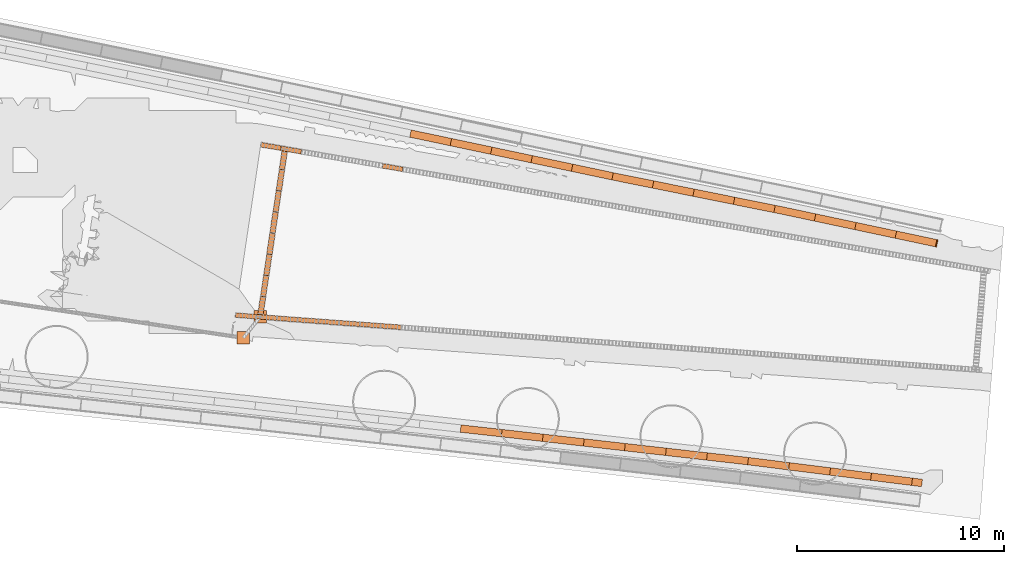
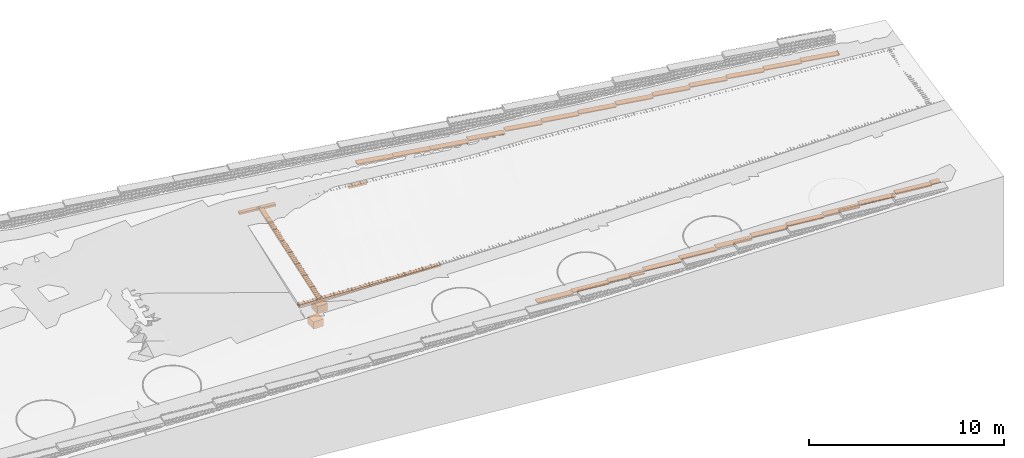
# Not in any storey, part 14 of 33: 47 proxies.
"""IFC4 model written with IfcOpenShell, lengths in metres."""

from ifc_helpers import new_model, si_unit, direction, frame, origin_with_axes, place, context, subcontext, project, spatial, polyline, outline, extrude, polygons, material, element, save


model = new_model("IFC4")

# Units and contexts
model_context = context("Model", 3, precision=1e-05, world=origin_with_axes(), true_north=direction((0.0, 1.0)))
body_context = subcontext(model_context, "Body", "Model", "MODEL_VIEW")
ifc_project = project(units=[si_unit("LENGTHUNIT", "METRE"), si_unit("AREAUNIT", "SQUARE_METRE"), si_unit("VOLUMEUNIT", "CUBIC_METRE")], contexts=[model_context])

# Site
site_placement = place(None, origin_with_axes())
site = spatial("IfcSite", under=ifc_project, at=site_placement, Name="Lares · Rua das Mercês · artigo 4771")

# Proxies
ifc_material_1 = material(Name="Brita drenante", Category="stone")
proxy_1_placement = place(site_placement, frame((0.0, 0.0, 0.0), z_axis=(0.0, 0.0, 1.0), x_axis=(1.0, -1.03767253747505e-17, 0.0)))
element("IfcBuildingElementProxy", 1, at=proxy_1_placement, inside=site, material=ifc_material_1, Name="Acesso · dreno lateral raso · leito drenante", ObjectType="Acesso · dreno lateral raso · leito drenante", PredefinedType="USERDEFINED", context=body_context, shape_type="Tessellation", body=[
    polygons([(46.6482466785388, 3.22123674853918, 14.3686), (46.6643740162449, 3.44064483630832, 14.3686), (47.6685459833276, 3.36683433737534, 14.37386763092), (47.6524186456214, 3.14742624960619, 14.37386763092), (46.6482466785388, 3.22123674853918, 14.4836), (46.6643740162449, 3.44064483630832, 14.4836), (47.6685459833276, 3.36683433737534, 14.48886763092), (47.6524186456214, 3.14742624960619, 14.48886763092)], [[[4, 3, 2, 1]], [[5, 6, 7, 8]], [[1, 2, 6, 5]], [[2, 3, 7, 6]], [[3, 4, 8, 7]], [[4, 1, 5, 8]]]),
])
proxy_2_placement = place(site_placement, frame((0.0, 0.0, 0.0), z_axis=(0.0, 0.0, 1.0), x_axis=(1.0, -1.03767253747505e-17, 0.0)))
element("IfcBuildingElementProxy", 2, at=proxy_2_placement, inside=site, material=ifc_material_1, Name="Acesso · dreno lateral raso · leito drenante", ObjectType="Acesso · dreno lateral raso · leito drenante", PredefinedType="USERDEFINED", context=body_context, shape_type="Tessellation", body=[
    polygons([(47.6524186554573, 3.14742624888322, 14.37386763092), (47.6685459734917, 3.36683433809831, 14.37386763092), (48.6727146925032, 3.29302416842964, 14.3809826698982), (48.6565873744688, 3.07361607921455, 14.3809826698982), (47.6524186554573, 3.14742624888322, 14.48886763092), (47.6685459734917, 3.36683433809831, 14.48886763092), (48.6727146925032, 3.29302416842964, 14.4959826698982), (48.6565873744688, 3.07361607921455, 14.4959826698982)], [[[4, 3, 2, 1]], [[5, 6, 7, 8]], [[1, 2, 6, 5]], [[2, 3, 7, 6]], [[3, 4, 8, 7]], [[4, 1, 5, 8]]]),
])
proxy_3_placement = place(site_placement, frame((0.0, 0.0, 0.0), z_axis=(0.0, 0.0, 1.0), x_axis=(1.0, -1.03767253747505e-17, 0.0)))
element("IfcBuildingElementProxy", 3, at=proxy_3_placement, inside=site, material=ifc_material_1, Name="Acesso · dreno lateral raso · leito drenante", ObjectType="Acesso · dreno lateral raso · leito drenante", PredefinedType="USERDEFINED", context=body_context, shape_type="Tessellation", body=[
    polygons([(48.656587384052, 3.07361607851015, 14.3809826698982), (48.67271468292, 3.29302416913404, 14.3809826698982), (49.6768800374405, 3.2192143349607, 14.3899451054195), (49.6607527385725, 2.99980624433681, 14.3899451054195), (48.656587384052, 3.07361607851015, 14.4959826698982), (48.67271468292, 3.29302416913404, 14.4959826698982), (49.6768800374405, 3.2192143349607, 14.5049451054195), (49.6607527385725, 2.99980624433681, 14.5049451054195)], [[[4, 3, 2, 1]], [[5, 6, 7, 8]], [[1, 2, 6, 5]], [[2, 3, 7, 6]], [[3, 4, 8, 7]], [[4, 1, 5, 8]]]),
])
proxy_4_placement = place(site_placement, frame((0.0, 0.0, 0.0), z_axis=(0.0, 0.0, 1.0), x_axis=(1.0, -1.03767253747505e-17, 0.0)))
element("IfcBuildingElementProxy", 4, at=proxy_4_placement, inside=site, material=ifc_material_1, Name="Acesso · dreno lateral raso · leito drenante", ObjectType="Acesso · dreno lateral raso · leito drenante", PredefinedType="USERDEFINED", context=body_context, shape_type="Tessellation", body=[
    polygons([(49.6607527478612, 2.99980624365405, 14.3899451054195), (49.6768800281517, 3.21921433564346, 14.3899451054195), (50.6810418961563, 3.14540484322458, 14.4007549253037), (50.6649146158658, 2.92599675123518, 14.4007549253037), (49.6607527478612, 2.99980624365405, 14.5049451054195), (49.6768800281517, 3.21921433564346, 14.5049451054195), (50.6810418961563, 3.14540484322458, 14.5157549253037), (50.6649146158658, 2.92599675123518, 14.5157549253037)], [[[4, 3, 2, 1]], [[5, 6, 7, 8]], [[1, 2, 6, 5]], [[2, 3, 7, 6]], [[3, 4, 8, 7]], [[4, 1, 5, 8]]]),
])
proxy_5_placement = place(site_placement, frame((0.0, 0.0, 0.0), z_axis=(0.0, 0.0, 1.0), x_axis=(1.0, -1.03767253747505e-17, 0.0)))
element("IfcBuildingElementProxy", 5, at=proxy_5_placement, inside=site, material=ifc_material_1, Name="Acesso · dreno lateral raso · leito drenante", ObjectType="Acesso · dreno lateral raso · leito drenante", PredefinedType="USERDEFINED", context=body_context, shape_type="Tessellation", body=[
    polygons([(50.664914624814, 2.92599675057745, 14.4007549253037), (50.681041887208, 3.14540484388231, 14.4007549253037), (51.6852001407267, 3.0715956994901, 14.413412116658), (51.6690728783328, 2.85218760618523, 14.413412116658), (50.664914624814, 2.92599675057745, 14.5157549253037), (50.681041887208, 3.14540484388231, 14.5157549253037), (51.6852001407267, 3.0715956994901, 14.528412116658), (51.6690728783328, 2.85218760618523, 14.528412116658)], [[[4, 3, 2, 1]], [[5, 6, 7, 8]], [[1, 2, 6, 5]], [[2, 3, 7, 6]], [[3, 4, 8, 7]], [[4, 1, 5, 8]]]),
])
proxy_6_placement = place(site_placement, frame((0.0, 0.0, 0.0), z_axis=(0.0, 0.0, 1.0), x_axis=(1.0, -1.03767253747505e-17, 0.0)))
element("IfcBuildingElementProxy", 6, at=proxy_6_placement, inside=site, material=ifc_material_1, Name="Acesso · dreno lateral raso · leito drenante", ObjectType="Acesso · dreno lateral raso · leito drenante", PredefinedType="USERDEFINED", context=body_context, shape_type="Tessellation", body=[
    polygons([(51.6690728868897, 2.85218760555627, 14.413412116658), (51.6852001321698, 3.07159570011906, 14.413412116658), (52.6893546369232, 2.99778691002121, 14.4279166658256), (52.673227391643, 2.77837881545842, 14.4279166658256), (51.6690728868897, 2.85218760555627, 14.528412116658), (51.6852001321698, 3.07159570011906, 14.528412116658), (52.6893546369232, 2.99778691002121, 14.5429166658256), (52.673227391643, 2.77837881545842, 14.5429166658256)], [[[4, 3, 2, 1]], [[5, 6, 7, 8]], [[1, 2, 6, 5]], [[2, 3, 7, 6]], [[3, 4, 8, 7]], [[4, 1, 5, 8]]]),
])
proxy_7_placement = place(site_placement, frame((0.0, 0.0, 0.0), z_axis=(0.0, 0.0, 1.0), x_axis=(1.0, -1.03767253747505e-17, 0.0)))
element("IfcBuildingElementProxy", 7, at=proxy_7_placement, inside=site, material=ifc_material_1, Name="Acesso · dreno lateral raso · leito drenante", ObjectType="Acesso · dreno lateral raso · leito drenante", PredefinedType="USERDEFINED", context=body_context, shape_type="Tessellation", body=[
    polygons([(52.6732273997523, 2.77837881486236, 14.4279166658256), (52.6893546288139, 2.99778691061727, 14.4279166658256), (53.693505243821, 2.92397848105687, 14.4442685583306), (53.6773780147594, 2.70457038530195, 14.4442685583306), (52.6732273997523, 2.77837881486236, 14.5429166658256), (52.6893546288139, 2.99778691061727, 14.5429166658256), (53.693505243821, 2.92397848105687, 14.5592685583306), (53.6773780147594, 2.70457038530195, 14.5592685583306)], [[[4, 3, 2, 1]], [[5, 6, 7, 8]], [[1, 2, 6, 5]], [[2, 3, 7, 6]], [[3, 4, 8, 7]], [[4, 1, 5, 8]]]),
])
proxy_8_placement = place(site_placement, frame((0.0, 0.0, 0.0), z_axis=(0.0, 0.0, 1.0), x_axis=(1.0, -1.03767253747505e-17, 0.0)))
element("IfcBuildingElementProxy", 8, at=proxy_8_placement, inside=site, material=ifc_material_1, Name="Acesso · dreno lateral raso · leito drenante", ObjectType="Acesso · dreno lateral raso · leito drenante", PredefinedType="USERDEFINED", context=body_context, shape_type="Tessellation", body=[
    polygons([(53.6773780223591, 2.70457038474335, 14.4442685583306), (53.6935052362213, 2.92397848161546, 14.4442685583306), (54.6976518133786, 2.85017041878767, 14.4624677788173), (54.6815245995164, 2.63076232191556, 14.4624677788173), (53.6773780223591, 2.70457038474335, 14.5592685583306), (53.6935052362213, 2.92397848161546, 14.5592685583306), (54.6976518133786, 2.85017041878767, 14.5774677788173), (54.6815245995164, 2.63076232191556, 14.5774677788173)], [[[4, 3, 2, 1]], [[5, 6, 7, 8]], [[1, 2, 6, 5]], [[2, 3, 7, 6]], [[3, 4, 8, 7]], [[4, 1, 5, 8]]]),
])
proxy_9_placement = place(site_placement, frame((0.0, 0.0, 0.0), z_axis=(0.0, 0.0, 1.0), x_axis=(1.0, -1.03767253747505e-17, 0.0)))
element("IfcBuildingElementProxy", 9, at=proxy_9_placement, inside=site, material=ifc_material_1, Name="Acesso · dreno lateral raso · leito drenante", ObjectType="Acesso · dreno lateral raso · leito drenante", PredefinedType="USERDEFINED", context=body_context, shape_type="Tessellation", body=[
    polygons([(47.8702143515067, 11.4709561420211, 14.7022), (47.9078673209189, 11.6877100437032, 14.7022), (48.8887310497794, 11.5173212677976, 14.7352470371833), (48.8510780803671, 11.3005673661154, 14.7352470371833), (47.8702143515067, 11.4709561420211, 14.8172), (47.9078673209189, 11.6877100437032, 14.8172), (48.8887310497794, 11.5173212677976, 14.8502470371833), (48.8510780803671, 11.3005673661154, 14.8502470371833)], [[[4, 3, 2, 1]], [[5, 6, 7, 8]], [[1, 2, 6, 5]], [[2, 3, 7, 6]], [[3, 4, 8, 7]], [[4, 1, 5, 8]]]),
])
proxy_10_placement = place(site_placement, frame((0.0, 0.0, 0.0), z_axis=(0.0, 0.0, 1.0), x_axis=(1.0, -1.03767253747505e-17, 0.0)))
element("IfcBuildingElementProxy", 10, at=proxy_10_placement, inside=site, material=ifc_material_1, Name="Acesso · dreno lateral raso · leito drenante", ObjectType="Acesso · dreno lateral raso · leito drenante", PredefinedType="USERDEFINED", context=body_context, shape_type="Tessellation", body=[
    polygons([(48.8510781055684, 11.3005673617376, 14.7352470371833), (48.888731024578, 11.5173212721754, 14.7352470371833), (49.8695980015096, 11.3469321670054, 14.7684950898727), (49.8319450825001, 11.1301782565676, 14.7684950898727), (48.8510781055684, 11.3005673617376, 14.8502470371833), (48.888731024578, 11.5173212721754, 14.8502470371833), (49.8695980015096, 11.3469321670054, 14.8834950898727), (49.8319450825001, 11.1301782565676, 14.8834950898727)], [[[4, 3, 2, 1]], [[5, 6, 7, 8]], [[1, 2, 6, 5]], [[2, 3, 7, 6]], [[3, 4, 8, 7]], [[4, 1, 5, 8]]]),
])
proxy_11_placement = place(site_placement, frame((0.0, 0.0, 0.0), z_axis=(0.0, 0.0, 1.0), x_axis=(1.0, -1.03767253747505e-17, 0.0)))
element("IfcBuildingElementProxy", 11, at=proxy_11_placement, inside=site, material=ifc_material_1, Name="Acesso · dreno lateral raso · leito drenante", ObjectType="Acesso · dreno lateral raso · leito drenante", PredefinedType="USERDEFINED", context=body_context, shape_type="Tessellation", body=[
    polygons([(53.7554480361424, 10.4486183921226, 14.8935725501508), (53.7931006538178, 10.6653723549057, 14.8935725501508), (54.7739857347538, 10.4949815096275, 14.92193946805), (54.7363331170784, 10.2782275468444, 14.92193946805), (53.7554480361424, 10.4486183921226, 15.0085725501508), (53.7931006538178, 10.6653723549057, 15.0085725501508), (54.7739857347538, 10.4949815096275, 15.03693946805), (54.7363331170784, 10.2782275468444, 15.03693946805)], [[[4, 3, 2, 1]], [[5, 6, 7, 8]], [[1, 2, 6, 5]], [[2, 3, 7, 6]], [[3, 4, 8, 7]], [[4, 1, 5, 8]]]),
])
proxy_12_placement = place(site_placement, frame((0.0, 0.0, 0.0), z_axis=(0.0, 0.0, 1.0), x_axis=(1.0, -1.03767253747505e-17, 0.0)))
element("IfcBuildingElementProxy", 12, at=proxy_12_placement, inside=site, material=ifc_material_1, Name="Interceção · caleira estacionamento · leito drenante", ObjectType="Interceção · caleira estacionamento · leito drenante", PredefinedType="USERDEFINED", context=body_context, shape_type="Tessellation", body=[
    polygons([(47.9855166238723, 3.19364159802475, 14.3737874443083), (47.7283234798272, 3.23174260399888, 14.3737874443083), (47.8800177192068, 4.25572392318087, 14.4205558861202), (48.1372108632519, 4.21762291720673, 14.4205558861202), (47.9855166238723, 3.19364159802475, 14.4887874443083), (47.7283234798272, 3.23174260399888, 14.4887874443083), (47.8800177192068, 4.25572392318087, 14.5355558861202), (48.1372108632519, 4.21762291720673, 14.5355558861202)], [[[4, 3, 2, 1]], [[5, 6, 7, 8]], [[1, 2, 6, 5]], [[2, 3, 7, 6]], [[3, 4, 8, 7]], [[4, 1, 5, 8]]]),
])
proxy_13_placement = place(site_placement, frame((0.0, 0.0, 0.0), z_axis=(0.0, 0.0, 1.0), x_axis=(1.0, -1.03767253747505e-17, 0.0)))
element("IfcBuildingElementProxy", 13, at=proxy_13_placement, inside=site, material=ifc_material_1, Name="Interceção · caleira estacionamento · leito drenante", ObjectType="Interceção · caleira estacionamento · leito drenante", PredefinedType="USERDEFINED", context=body_context, shape_type="Tessellation", body=[
    polygons([(48.1372108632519, 4.21762291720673, 14.4205558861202), (47.8800177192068, 4.25572392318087, 14.4205558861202), (48.0317119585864, 5.27970524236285, 14.4665488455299), (48.2889051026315, 5.24160423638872, 14.4665488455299), (48.1372108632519, 4.21762291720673, 14.5355558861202), (47.8800177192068, 4.25572392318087, 14.5355558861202), (48.0317119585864, 5.27970524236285, 14.5815488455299), (48.2889051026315, 5.24160423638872, 14.5815488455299)], [[[4, 3, 2, 1]], [[5, 6, 7, 8]], [[1, 2, 6, 5]], [[2, 3, 7, 6]], [[3, 4, 8, 7]], [[4, 1, 5, 8]]]),
])
proxy_14_placement = place(site_placement, frame((0.0, 0.0, 0.0), z_axis=(0.0, 0.0, 1.0), x_axis=(1.0, -1.03767253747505e-17, 0.0)))
element("IfcBuildingElementProxy", 14, at=proxy_14_placement, inside=site, material=ifc_material_1, Name="Interceção · caleira estacionamento · leito drenante", ObjectType="Interceção · caleira estacionamento · leito drenante", PredefinedType="USERDEFINED", context=body_context, shape_type="Tessellation", body=[
    polygons([(48.2889051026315, 5.24160423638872, 14.4665488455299), (48.0317119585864, 5.27970524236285, 14.4665488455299), (48.1834061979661, 6.30368656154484, 14.5127531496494), (48.4405993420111, 6.2655855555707, 14.5127531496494), (48.2889051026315, 5.24160423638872, 14.5815488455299), (48.0317119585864, 5.27970524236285, 14.5815488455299), (48.1834061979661, 6.30368656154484, 14.6277531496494), (48.4405993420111, 6.2655855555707, 14.6277531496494)], [[[4, 3, 2, 1]], [[5, 6, 7, 8]], [[1, 2, 6, 5]], [[2, 3, 7, 6]], [[3, 4, 8, 7]], [[4, 1, 5, 8]]]),
])
proxy_15_placement = place(site_placement, frame((0.0, 0.0, 0.0), z_axis=(0.0, 0.0, 1.0), x_axis=(1.0, -1.03767253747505e-17, 0.0)))
element("IfcBuildingElementProxy", 15, at=proxy_15_placement, inside=site, material=ifc_material_1, Name="Interceção · caleira estacionamento · leito drenante", ObjectType="Interceção · caleira estacionamento · leito drenante", PredefinedType="USERDEFINED", context=body_context, shape_type="Tessellation", body=[
    polygons([(48.4405993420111, 6.2655855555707, 14.5127531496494), (48.1834061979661, 6.30368656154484, 14.5127531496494), (48.3351004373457, 7.32766788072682, 14.5589574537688), (48.5922935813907, 7.28956687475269, 14.5589574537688), (48.4405993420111, 6.2655855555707, 14.6277531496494), (48.1834061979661, 6.30368656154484, 14.6277531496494), (48.3351004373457, 7.32766788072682, 14.6739574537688), (48.5922935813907, 7.28956687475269, 14.6739574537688)], [[[4, 3, 2, 1]], [[5, 6, 7, 8]], [[1, 2, 6, 5]], [[2, 3, 7, 6]], [[3, 4, 8, 7]], [[4, 1, 5, 8]]]),
])
proxy_16_placement = place(site_placement, frame((0.0, 0.0, 0.0), z_axis=(0.0, 0.0, 1.0), x_axis=(1.0, -1.03767253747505e-17, 0.0)))
element("IfcBuildingElementProxy", 16, at=proxy_16_placement, inside=site, material=ifc_material_1, Name="Interceção · caleira estacionamento · leito drenante", ObjectType="Interceção · caleira estacionamento · leito drenante", PredefinedType="USERDEFINED", context=body_context, shape_type="Tessellation", body=[
    polygons([(48.5922935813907, 7.28956687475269, 14.5589574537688), (48.3351004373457, 7.32766788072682, 14.5589574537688), (48.4867946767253, 8.35164919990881, 14.6051617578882), (48.7439878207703, 8.31354819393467, 14.6051617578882), (48.5922935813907, 7.28956687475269, 14.6739574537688), (48.3351004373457, 7.32766788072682, 14.6739574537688), (48.4867946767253, 8.35164919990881, 14.7201617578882), (48.7439878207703, 8.31354819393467, 14.7201617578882)], [[[4, 3, 2, 1]], [[5, 6, 7, 8]], [[1, 2, 6, 5]], [[2, 3, 7, 6]], [[3, 4, 8, 7]], [[4, 1, 5, 8]]]),
])
proxy_17_placement = place(site_placement, frame((0.0, 0.0, 0.0), z_axis=(0.0, 0.0, 1.0), x_axis=(1.0, -1.03767253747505e-17, 0.0)))
element("IfcBuildingElementProxy", 17, at=proxy_17_placement, inside=site, material=ifc_material_1, Name="Interceção · caleira estacionamento · leito drenante", ObjectType="Interceção · caleira estacionamento · leito drenante", PredefinedType="USERDEFINED", context=body_context, shape_type="Tessellation", body=[
    polygons([(48.7439878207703, 8.31354819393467, 14.6051617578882), (48.4867946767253, 8.35164919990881, 14.6051617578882), (48.6384889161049, 9.37563051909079, 14.6513660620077), (48.8956820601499, 9.33752951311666, 14.6513660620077), (48.7439878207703, 8.31354819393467, 14.7201617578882), (48.4867946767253, 8.35164919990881, 14.7201617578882), (48.6384889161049, 9.37563051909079, 14.7663660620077), (48.8956820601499, 9.33752951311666, 14.7663660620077)], [[[4, 3, 2, 1]], [[5, 6, 7, 8]], [[1, 2, 6, 5]], [[2, 3, 7, 6]], [[3, 4, 8, 7]], [[4, 1, 5, 8]]]),
])
proxy_18_placement = place(site_placement, frame((0.0, 0.0, 0.0), z_axis=(0.0, 0.0, 1.0), x_axis=(1.0, -1.03767253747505e-17, 0.0)))
element("IfcBuildingElementProxy", 18, at=proxy_18_placement, inside=site, material=ifc_material_1, Name="Interceção · caleira estacionamento · leito drenante", ObjectType="Interceção · caleira estacionamento · leito drenante", PredefinedType="USERDEFINED", context=body_context, shape_type="Tessellation", body=[
    polygons([(48.8956820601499, 9.33752951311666, 14.6513660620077), (48.6384889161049, 9.37563051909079, 14.6513660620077), (48.7901831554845, 10.3996118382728, 14.6975703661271), (49.0473762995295, 10.3615108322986, 14.6975703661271), (48.8956820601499, 9.33752951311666, 14.7663660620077), (48.6384889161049, 9.37563051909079, 14.7663660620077), (48.7901831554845, 10.3996118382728, 14.8125703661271), (49.0473762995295, 10.3615108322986, 14.8125703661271)], [[[4, 3, 2, 1]], [[5, 6, 7, 8]], [[1, 2, 6, 5]], [[2, 3, 7, 6]], [[3, 4, 8, 7]], [[4, 1, 5, 8]]]),
])
proxy_19_placement = place(site_placement, frame((0.0, 0.0, 0.0), z_axis=(0.0, 0.0, 1.0), x_axis=(1.0, -1.03767253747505e-17, 0.0)))
element("IfcBuildingElementProxy", 19, at=proxy_19_placement, inside=site, material=ifc_material_1, Name="Interceção · caleira estacionamento · leito drenante", ObjectType="Interceção · caleira estacionamento · leito drenante", PredefinedType="USERDEFINED", context=body_context, shape_type="Tessellation", body=[
    polygons([(49.0473762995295, 10.3615108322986, 14.6975703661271), (48.7901831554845, 10.3996118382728, 14.6975703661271), (48.9418773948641, 11.4235931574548, 14.7426823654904), (49.1990705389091, 11.3854921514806, 14.7426823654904), (49.0473762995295, 10.3615108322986, 14.8125703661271), (48.7901831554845, 10.3996118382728, 14.8125703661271), (48.9418773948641, 11.4235931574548, 14.8576823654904), (49.1990705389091, 11.3854921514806, 14.8576823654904)], [[[4, 3, 2, 1]], [[5, 6, 7, 8]], [[1, 2, 6, 5]], [[2, 3, 7, 6]], [[3, 4, 8, 7]], [[4, 1, 5, 8]]]),
])
ifc_material_2 = material(Name="Caleiras · betão", Category="concrete")
proxy_20_placement = place(site_placement, frame((0.0, 0.0, 13.7860142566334), z_axis=(0.0, 0.0, 1.0), x_axis=(1.0, -1.03767253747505e-17, 0.0)))
element("IfcBuildingElementProxy", 20, at=proxy_20_placement, inside=site, material=ifc_material_2, Name="Acesso · caixa de retenção de sedimentos", ObjectType="Acesso · caixa de retenção de sedimentos", PredefinedType="USERDEFINED", context=body_context, shape_type="SweptSolid", body=[
    extrude(outline(polyline([(48.1613163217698, 2.94236823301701), (48.1613163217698, 3.54236823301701), (47.5613163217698, 3.54236823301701), (47.5613163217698, 2.94236823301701), (48.1613163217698, 2.94236823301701)])), origin_with_axes(), (0.0, 0.0, 1.0), 0.45),
])
proxy_21_placement = place(site_placement, frame((0.0, 0.0, 13.7174085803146), z_axis=(0.0, 0.0, 1.0), x_axis=(1.0, -1.03767253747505e-17, 0.0)))
element("IfcBuildingElementProxy", 21, at=proxy_21_placement, inside=site, material=ifc_material_2, Name="Acesso · caixa de retenção de sedimentos", ObjectType="Acesso · caixa de retenção de sedimentos", PredefinedType="USERDEFINED", context=body_context, shape_type="SweptSolid", body=[
    extrude(outline(polyline([(47.3480253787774, 1.93095927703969), (47.3480253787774, 2.53095927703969), (46.7480253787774, 2.53095927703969), (46.7480253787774, 1.93095927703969), (47.3480253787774, 1.93095927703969)])), origin_with_axes(), (0.0, 0.0, 1.0), 0.45),
])
proxy_22_placement = place(site_placement, frame((0.0, 0.0, 15.0027187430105), z_axis=(0.0, 0.0, 1.0), x_axis=(1.0, -1.03767253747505e-17, 0.0)))
element("IfcBuildingElementProxy", 22, at=proxy_22_placement, inside=site, material=ifc_material_1, Name="Limite north · vala de interceção", ObjectType="Limite north · vala de interceção", PredefinedType="USERDEFINED", context=body_context, shape_type="SweptSolid", body=[
    extrude(outline(polyline([(56.2661596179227, 12.0634059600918), (56.2664302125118, 12.0633489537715), (57.1303956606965, 11.8806436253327), (57.0559126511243, 11.5284330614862), (56.1920824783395, 11.7111097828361), (55.0991041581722, 11.9404914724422), (55.1730459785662, 12.2928160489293), (56.2661596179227, 12.0634059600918)])), origin_with_axes(), (0.0, 0.0, 1.0), 0.06),
])
proxy_23_placement = place(site_placement, frame((0.0, 0.0, 15.0307989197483), z_axis=(0.0, 0.0, 1.0), x_axis=(1.0, -1.03767253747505e-17, 0.0)))
element("IfcBuildingElementProxy", 23, at=proxy_23_placement, inside=site, material=ifc_material_1, Name="Limite north · vala de interceção", ObjectType="Limite north · vala de interceção", PredefinedType="USERDEFINED", context=body_context, shape_type="SweptSolid", body=[
    extrude(outline(polyline([(59.0871210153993, 11.4668491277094), (59.0126380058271, 11.1146385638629), (57.0559126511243, 11.5284330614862), (57.1303956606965, 11.8806436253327), (59.0871210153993, 11.4668491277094)])), origin_with_axes(), (0.0, 0.0, 1.0), 0.06),
])
proxy_24_placement = place(site_placement, frame((0.0, 0.0, 15.0374429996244), z_axis=(0.0, 0.0, 1.0), x_axis=(1.0, -1.03767253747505e-17, 0.0)))
element("IfcBuildingElementProxy", 24, at=proxy_24_placement, inside=site, material=ifc_material_1, Name="Limite north · vala de interceção", ObjectType="Limite north · vala de interceção", PredefinedType="USERDEFINED", context=body_context, shape_type="SweptSolid", body=[
    extrude(outline(polyline([(61.043846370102, 11.0530546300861), (60.9693633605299, 10.7008440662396), (59.0126380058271, 11.1146385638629), (59.0871210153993, 11.4668491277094), (61.043846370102, 11.0530546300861)])), origin_with_axes(), (0.0, 0.0, 1.0), 0.06),
])
proxy_25_placement = place(site_placement, frame((0.0, 0.0, 15.1813322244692), z_axis=(0.0, 0.0, 1.0), x_axis=(1.0, -1.03767253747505e-17, 0.0)))
element("IfcBuildingElementProxy", 25, at=proxy_25_placement, inside=site, material=ifc_material_1, Name="Limite north · vala de interceção", ObjectType="Limite north · vala de interceção", PredefinedType="USERDEFINED", context=body_context, shape_type="SweptSolid", body=[
    extrude(outline(polyline([(63.0005717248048, 10.6392601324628), (62.9260887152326, 10.2870495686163), (60.9693633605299, 10.7008440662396), (61.043846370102, 11.0530546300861), (63.0005717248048, 10.6392601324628)])), origin_with_axes(), (0.0, 0.0, 1.0), 0.06),
])
proxy_26_placement = place(site_placement, frame((0.0, 0.0, 15.346342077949), z_axis=(0.0, 0.0, 1.0), x_axis=(1.0, -1.03767253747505e-17, 0.0)))
element("IfcBuildingElementProxy", 26, at=proxy_26_placement, inside=site, material=ifc_material_1, Name="Limite north · vala de interceção", ObjectType="Limite north · vala de interceção", PredefinedType="USERDEFINED", context=body_context, shape_type="SweptSolid", body=[
    extrude(outline(polyline([(64.9572970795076, 10.2254656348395), (64.8828140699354, 9.873255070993), (62.9260887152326, 10.2870495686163), (63.0005717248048, 10.6392601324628), (64.9572970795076, 10.2254656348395)])), origin_with_axes(), (0.0, 0.0, 1.0), 0.06),
])
proxy_27_placement = place(site_placement, frame((0.0, 0.0, 15.4582202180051), z_axis=(0.0, 0.0, 1.0), x_axis=(1.0, -1.03767253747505e-17, 0.0)))
element("IfcBuildingElementProxy", 27, at=proxy_27_placement, inside=site, material=ifc_material_1, Name="Limite north · vala de interceção", ObjectType="Limite north · vala de interceção", PredefinedType="USERDEFINED", context=body_context, shape_type="SweptSolid", body=[
    extrude(outline(polyline([(64.9611671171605, 10.2246472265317), (66.9161548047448, 9.83033794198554), (66.8449782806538, 9.47744432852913), (64.8891631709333, 9.87192049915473), (64.8875099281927, 9.87226202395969), (64.8828140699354, 9.873255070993), (64.9572970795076, 10.2254656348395), (64.9611671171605, 10.2246472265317)])), origin_with_axes(), (0.0, 0.0, 1.0), 0.06),
])
proxy_28_placement = place(site_placement, frame((0.0, 0.0, 15.5363302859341), z_axis=(0.0, 0.0, 1.0), x_axis=(1.0, -1.03767253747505e-17, 0.0)))
element("IfcBuildingElementProxy", 28, at=proxy_28_placement, inside=site, material=ifc_material_1, Name="Limite north · vala de interceção", ObjectType="Limite north · vala de interceção", PredefinedType="USERDEFINED", context=body_context, shape_type="SweptSolid", body=[
    extrude(outline(polyline([(68.8766748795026, 9.43491280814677), (68.8054983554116, 9.08201919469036), (66.8449782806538, 9.47744432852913), (66.9161548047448, 9.83033794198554), (68.8766748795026, 9.43491280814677)])), origin_with_axes(), (0.0, 0.0, 1.0), 0.06),
])
proxy_29_placement = place(site_placement, frame((0.0, 0.0, 15.641191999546), z_axis=(0.0, 0.0, 1.0), x_axis=(1.0, -1.03767253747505e-17, 0.0)))
element("IfcBuildingElementProxy", 29, at=proxy_29_placement, inside=site, material=ifc_material_1, Name="Limite north · vala de interceção", ObjectType="Limite north · vala de interceção", PredefinedType="USERDEFINED", context=body_context, shape_type="SweptSolid", body=[
    extrude(outline(polyline([(70.8371949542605, 9.039487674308), (70.7660184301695, 8.68659406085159), (68.8054983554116, 9.08201919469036), (68.8766748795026, 9.43491280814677), (70.8371949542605, 9.039487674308)])), origin_with_axes(), (0.0, 0.0, 1.0), 0.06),
])
proxy_30_placement = place(site_placement, frame((0.0, 0.0, 15.7528472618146), z_axis=(0.0, 0.0, 1.0), x_axis=(1.0, -1.03767253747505e-17, 0.0)))
element("IfcBuildingElementProxy", 30, at=proxy_30_placement, inside=site, material=ifc_material_1, Name="Limite north · vala de interceção", ObjectType="Limite north · vala de interceção", PredefinedType="USERDEFINED", context=body_context, shape_type="SweptSolid", body=[
    extrude(outline(polyline([(72.7977150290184, 8.64406254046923), (72.7265385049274, 8.29116892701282), (70.7660184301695, 8.68659406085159), (70.8371949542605, 9.039487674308), (72.7977150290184, 8.64406254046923)])), origin_with_axes(), (0.0, 0.0, 1.0), 0.06),
])
proxy_31_placement = place(site_placement, frame((0.0, 0.0, 15.8750952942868), z_axis=(0.0, 0.0, 1.0), x_axis=(1.0, -1.03767253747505e-17, 0.0)))
element("IfcBuildingElementProxy", 31, at=proxy_31_placement, inside=site, material=ifc_material_1, Name="Limite north · vala de interceção", ObjectType="Limite north · vala de interceção", PredefinedType="USERDEFINED", context=body_context, shape_type="SweptSolid", body=[
    extrude(outline(polyline([(73.2831791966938, 8.54614733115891), (73.284996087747, 8.54577111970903), (74.7569069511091, 8.23307239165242), (74.6820966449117, 7.88093120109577), (73.2110932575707, 8.19343714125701), (72.7265385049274, 8.29116892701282), (72.7977150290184, 8.64406254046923), (73.2831791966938, 8.54614733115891)])), origin_with_axes(), (0.0, 0.0, 1.0), 0.06),
])
proxy_32_placement = place(site_placement, frame((0.0, 0.0, 15.9753502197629), z_axis=(0.0, 0.0, 1.0), x_axis=(1.0, -1.03767253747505e-17, 0.0)))
element("IfcBuildingElementProxy", 32, at=proxy_32_placement, inside=site, material=ifc_material_1, Name="Limite north · vala de interceção", ObjectType="Limite north · vala de interceção", PredefinedType="USERDEFINED", context=body_context, shape_type="SweptSolid", body=[
    extrude(outline(polyline([(76.7132468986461, 7.81745957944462), (76.6384365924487, 7.46531838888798), (74.6820966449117, 7.88093120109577), (74.7569069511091, 8.23307239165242), (76.7132468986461, 7.81745957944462)])), origin_with_axes(), (0.0, 0.0, 1.0), 0.06),
])
proxy_33_placement = place(site_placement, frame((0.0, 0.0, 16.0728176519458), z_axis=(0.0, 0.0, 1.0), x_axis=(1.0, -1.03767253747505e-17, 0.0)))
element("IfcBuildingElementProxy", 33, at=proxy_33_placement, inside=site, material=ifc_material_1, Name="Limite north · vala de interceção", ObjectType="Limite north · vala de interceção", PredefinedType="USERDEFINED", context=body_context, shape_type="SweptSolid", body=[
    extrude(outline(polyline([(78.669586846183, 7.40184676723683), (78.5947765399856, 7.04970557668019), (76.6384365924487, 7.46531838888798), (76.7132468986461, 7.81745957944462), (78.669586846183, 7.40184676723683)])), origin_with_axes(), (0.0, 0.0, 1.0), 0.06),
])
proxy_34_placement = place(site_placement, frame((0.0, 0.0, 16.1534996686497), z_axis=(0.0, 0.0, 1.0), x_axis=(1.0, -1.03767253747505e-17, 0.0)))
element("IfcBuildingElementProxy", 34, at=proxy_34_placement, inside=site, material=ifc_material_1, Name="Limite north · vala de interceção", ObjectType="Limite north · vala de interceção", PredefinedType="USERDEFINED", context=body_context, shape_type="SweptSolid", body=[
    extrude(outline(polyline([(80.6259267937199, 6.98623395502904), (80.5511164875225, 6.63409276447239), (78.5947765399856, 7.04970557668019), (78.669586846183, 7.40184676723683), (80.6259267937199, 6.98623395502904)])), origin_with_axes(), (0.0, 0.0, 1.0), 0.06),
])
proxy_35_placement = place(site_placement, frame((0.0, 0.0, 16.1947036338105), z_axis=(0.0, 0.0, 1.0), x_axis=(1.0, -1.03767253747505e-17, 0.0)))
element("IfcBuildingElementProxy", 35, at=proxy_35_placement, inside=site, material=ifc_material_1, Name="Limite north · vala de interceção", ObjectType="Limite north · vala de interceção", PredefinedType="USERDEFINED", context=body_context, shape_type="SweptSolid", body=[
    extrude(outline(polyline([(80.6677759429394, 6.9773433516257), (80.592965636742, 6.62520216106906), (80.5511164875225, 6.63409276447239), (80.6259267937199, 6.98623395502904), (80.6677759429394, 6.9773433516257)])), origin_with_axes(), (0.0, 0.0, 1.0), 0.06),
])
proxy_36_placement = place(site_placement, frame((0.0, 0.0, 14.1395809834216), z_axis=(0.0, 0.0, 1.0), x_axis=(1.0, -1.03767253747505e-17, 0.0)))
element("IfcBuildingElementProxy", 36, at=proxy_36_placement, inside=site, material=ifc_material_1, Name="Limite south · vala de interceção", ObjectType="Limite south · vala de interceção", PredefinedType="USERDEFINED", context=body_context, shape_type="SweptSolid", body=[
    extrude(outline(polyline([(59.4488968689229, -2.187754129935), (59.4493673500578, -2.18780699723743), (59.5750196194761, -2.20209372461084), (59.5343494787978, -2.55978904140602), (59.4089324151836, -2.54552905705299), (57.5470734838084, -2.33879370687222), (57.586802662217, -1.98099265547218), (59.4488968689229, -2.187754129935)])), origin_with_axes(), (0.0, 0.0, 1.0), 0.06),
])
proxy_37_placement = place(site_placement, frame((0.0, 0.0, 14.2170636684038), z_axis=(0.0, 0.0, 1.0), x_axis=(1.0, -1.03767253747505e-17, 0.0)))
element("IfcBuildingElementProxy", 37, at=proxy_37_placement, inside=site, material=ifc_material_1, Name="Limite south · vala de interceção", ObjectType="Limite south · vala de interceção", PredefinedType="USERDEFINED", context=body_context, shape_type="SweptSolid", body=[
    extrude(outline(polyline([(61.5622158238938, -2.42803895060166), (61.5215456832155, -2.78573426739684), (59.5343494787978, -2.55978904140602), (59.5750196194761, -2.20209372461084), (61.5622158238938, -2.42803895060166)])), origin_with_axes(), (0.0, 0.0, 1.0), 0.06),
])
proxy_38_placement = place(site_placement, frame((0.0, 0.0, 14.3081618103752), z_axis=(0.0, 0.0, 1.0), x_axis=(1.0, -1.03767253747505e-17, 0.0)))
element("IfcBuildingElementProxy", 38, at=proxy_38_placement, inside=site, material=ifc_material_1, Name="Limite south · vala de interceção", ObjectType="Limite south · vala de interceção", PredefinedType="USERDEFINED", context=body_context, shape_type="SweptSolid", body=[
    extrude(outline(polyline([(63.5494120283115, -2.65398417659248), (63.5087418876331, -3.01167949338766), (61.5215456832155, -2.78573426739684), (61.5622158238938, -2.42803895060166), (63.5494120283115, -2.65398417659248)])), origin_with_axes(), (0.0, 0.0, 1.0), 0.06),
])
proxy_39_placement = place(site_placement, frame((0.0, 0.0, 14.4566455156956), z_axis=(0.0, 0.0, 1.0), x_axis=(1.0, -1.03767253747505e-17, 0.0)))
element("IfcBuildingElementProxy", 39, at=proxy_39_placement, inside=site, material=ifc_material_1, Name="Limite south · vala de interceção", ObjectType="Limite south · vala de interceção", PredefinedType="USERDEFINED", context=body_context, shape_type="SweptSolid", body=[
    extrude(outline(polyline([(65.5366082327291, -2.8799294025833), (65.4959380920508, -3.23762471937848), (63.5087418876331, -3.01167949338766), (63.5494120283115, -2.65398417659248), (65.5366082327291, -2.8799294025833)])), origin_with_axes(), (0.0, 0.0, 1.0), 0.06),
])
proxy_40_placement = place(site_placement, frame((0.0, 0.0, 14.605129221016), z_axis=(0.0, 0.0, 1.0), x_axis=(1.0, -1.03767253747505e-17, 0.0)))
element("IfcBuildingElementProxy", 40, at=proxy_40_placement, inside=site, material=ifc_material_1, Name="Limite south · vala de interceção", ObjectType="Limite south · vala de interceção", PredefinedType="USERDEFINED", context=body_context, shape_type="SweptSolid", body=[
    extrude(outline(polyline([(67.5238044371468, -3.10587462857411), (67.4831342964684, -3.46356994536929), (65.4959380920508, -3.23762471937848), (65.5366082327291, -2.8799294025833), (67.5238044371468, -3.10587462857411)])), origin_with_axes(), (0.0, 0.0, 1.0), 0.06),
])
proxy_41_placement = place(site_placement, frame((0.0, 0.0, 14.7536129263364), z_axis=(0.0, 0.0, 1.0), x_axis=(1.0, -1.03767253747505e-17, 0.0)))
element("IfcBuildingElementProxy", 41, at=proxy_41_placement, inside=site, material=ifc_material_1, Name="Limite south · vala de interceção", ObjectType="Limite south · vala de interceção", PredefinedType="USERDEFINED", context=body_context, shape_type="SweptSolid", body=[
    extrude(outline(polyline([(69.5110006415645, -3.33181985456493), (69.4703305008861, -3.68951517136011), (67.4831342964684, -3.46356994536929), (67.5238044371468, -3.10587462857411), (69.5110006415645, -3.33181985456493)])), origin_with_axes(), (0.0, 0.0, 1.0), 0.06),
])
proxy_42_placement = place(site_placement, frame((0.0, 0.0, 14.9020966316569), z_axis=(0.0, 0.0, 1.0), x_axis=(1.0, -1.03767253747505e-17, 0.0)))
element("IfcBuildingElementProxy", 42, at=proxy_42_placement, inside=site, material=ifc_material_1, Name="Limite south · vala de interceção", ObjectType="Limite south · vala de interceção", PredefinedType="USERDEFINED", context=body_context, shape_type="SweptSolid", body=[
    extrude(outline(polyline([(71.4699829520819, -3.55455714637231), (71.4721121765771, -3.55481209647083), (71.5002858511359, -3.55835592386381), (71.4553572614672, -3.91554134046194), (71.4282474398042, -3.91213132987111), (69.4703305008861, -3.68951517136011), (69.5110006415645, -3.33181985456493), (71.4699829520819, -3.55455714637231)])), origin_with_axes(), (0.0, 0.0, 1.0), 0.06),
])
proxy_43_placement = place(site_placement, frame((0.0, 0.0, 15.0140327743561), z_axis=(0.0, 0.0, 1.0), x_axis=(1.0, -1.03767253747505e-17, 0.0)))
element("IfcBuildingElementProxy", 43, at=proxy_43_placement, inside=site, material=ifc_material_1, Name="Limite south · vala de interceção", ObjectType="Limite south · vala de interceção", PredefinedType="USERDEFINED", context=body_context, shape_type="SweptSolid", body=[
    extrude(outline(polyline([(73.4846492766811, -3.80795919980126), (73.4397206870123, -4.16514461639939), (71.4553572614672, -3.91554134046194), (71.5002858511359, -3.55835592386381), (73.4846492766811, -3.80795919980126)])), origin_with_axes(), (0.0, 0.0, 1.0), 0.06),
])
proxy_44_placement = place(site_placement, frame((0.0, 0.0, 15.1274253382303), z_axis=(0.0, 0.0, 1.0), x_axis=(1.0, -1.03767253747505e-17, 0.0)))
element("IfcBuildingElementProxy", 44, at=proxy_44_placement, inside=site, material=ifc_material_1, Name="Limite south · vala de interceção", ObjectType="Limite south · vala de interceção", PredefinedType="USERDEFINED", context=body_context, shape_type="SweptSolid", body=[
    extrude(outline(polyline([(75.4690127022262, -4.05756247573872), (75.4240841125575, -4.41474789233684), (73.4397206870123, -4.16514461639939), (73.4846492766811, -3.80795919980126), (75.4690127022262, -4.05756247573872)])), origin_with_axes(), (0.0, 0.0, 1.0), 0.06),
])
proxy_45_placement = place(site_placement, frame((0.0, 0.0, 15.2554262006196), z_axis=(0.0, 0.0, 1.0), x_axis=(1.0, -1.03767253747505e-17, 0.0)))
element("IfcBuildingElementProxy", 45, at=proxy_45_placement, inside=site, material=ifc_material_1, Name="Limite south · vala de interceção", ObjectType="Limite south · vala de interceção", PredefinedType="USERDEFINED", context=body_context, shape_type="SweptSolid", body=[
    extrude(outline(polyline([(77.4533761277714, -4.30716575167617), (77.4084475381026, -4.6643511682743), (75.4240841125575, -4.41474789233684), (75.4690127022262, -4.05756247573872), (77.4533761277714, -4.30716575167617)])), origin_with_axes(), (0.0, 0.0, 1.0), 0.06),
])
proxy_46_placement = place(site_placement, frame((0.0, 0.0, 15.3940637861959), z_axis=(0.0, 0.0, 1.0), x_axis=(1.0, -1.03767253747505e-17, 0.0)))
element("IfcBuildingElementProxy", 46, at=proxy_46_placement, inside=site, material=ifc_material_1, Name="Limite south · vala de interceção", ObjectType="Limite south · vala de interceção", PredefinedType="USERDEFINED", context=body_context, shape_type="SweptSolid", body=[
    extrude(outline(polyline([(79.4377395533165, -4.55676902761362), (79.3928109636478, -4.91395444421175), (77.4084475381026, -4.6643511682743), (77.4533761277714, -4.30716575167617), (79.4377395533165, -4.55676902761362)])), origin_with_axes(), (0.0, 0.0, 1.0), 0.06),
])
proxy_47_placement = place(site_placement, frame((0.0, 0.0, 15.4802340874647), z_axis=(0.0, 0.0, 1.0), x_axis=(1.0, -1.03767253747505e-17, 0.0)))
element("IfcBuildingElementProxy", 47, at=proxy_47_placement, inside=site, material=ifc_material_1, Name="Limite south · vala de interceção", ObjectType="Limite south · vala de interceção", PredefinedType="USERDEFINED", context=body_context, shape_type="SweptSolid", body=[
    extrude(outline(polyline([(79.9201414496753, -4.61744797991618), (79.8752128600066, -4.9746333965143), (79.3928109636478, -4.91395444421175), (79.4377395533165, -4.55676902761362), (79.9201414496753, -4.61744797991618)])), origin_with_axes(), (0.0, 0.0, 1.0), 0.06),
])

save(model, "model.ifc")
